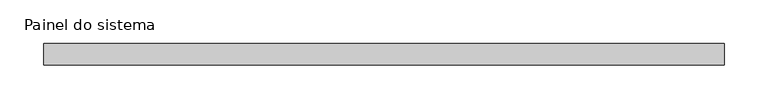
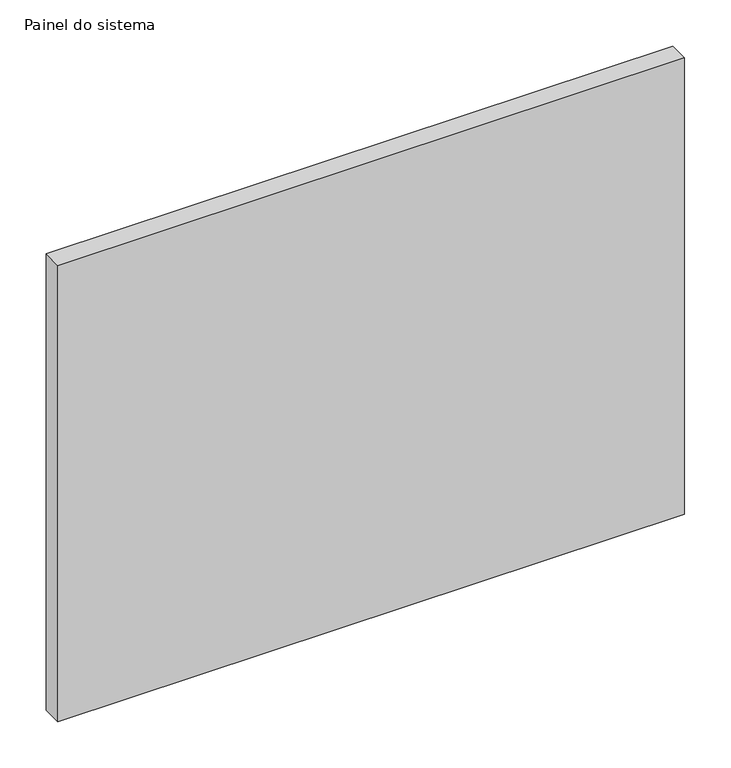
"""IFC4 building model written with IfcOpenShell, lengths in millimetres: plate geometry, Painel do sistema : Envidraçado."""

import ifcopenshell
import ifcopenshell.guid

model = None  # the IFC model being written
_history = None  # IfcOwnerHistory: only IFC2X3 demands one
_inside = {}  # id of a spatial element -> (the spatial element, [elements in it])
_under = {}  # id of a project, library or spatial element -> (it, [spatial elements below it])
_declared = {}  # id of a project -> (the project, [libraries it declares])
_typed = {}  # id of a type object -> (the type object, [elements of that type])
_made_of = {}  # id of a material, layer set ... -> (it, [elements and type objects made of it])


def new_model(schema):
    """Start an empty IFC model of exactly this schema.

    Asked for "IFC4X3", IfcOpenShell would pick the latest addendum, in which some entities
    have other attributes; the version numbers below select the first issue.
    IFC2X3 requires an IfcOwnerHistory on every rooted entity: one is made here for all.
    """
    global model, _history
    if schema == "IFC4X3":
        model = ifcopenshell.file(schema_version=(4, 3, 0, 0))
    else:
        model = ifcopenshell.file(schema=schema)
    _inside.clear()
    _under.clear()
    _declared.clear()
    _typed.clear()
    _made_of.clear()
    _history = None
    if model.schema == "IFC2X3":
        org = make("IfcOrganization", Name="unknown")
        user = make(
            "IfcPersonAndOrganization",
            ThePerson=make("IfcPerson", FamilyName="unknown"),
            TheOrganization=org,
        )
        app = make(
            "IfcApplication",
            ApplicationDeveloper=org,
            Version="unknown",
            ApplicationFullName="unknown",
            ApplicationIdentifier="unknown",
        )
        _history = make(
            "IfcOwnerHistory",
            OwningUser=user,
            OwningApplication=app,
            ChangeAction="ADDED",
            CreationDate=0,
        )
    return model


def make(cls, **values):
    """One entity of the class cls with the attributes given. An attribute that is None is left unset."""
    return model.create_entity(
        cls, **{name: value for name, value in values.items() if value is not None}
    )


def rooted(cls, **values):
    """An entity with a GlobalId (a new one), such as an element, a storey or a relation."""
    return make(cls, GlobalId=ifcopenshell.guid.new(), OwnerHistory=_history, **values)


def si_unit(unit_type, name, prefix=None):
    """IfcSIUnit, for example si_unit("LENGTHUNIT", "METRE", prefix="MILLI")."""
    return make("IfcSIUnit", UnitType=unit_type, Prefix=prefix, Name=name)


def assignment(units):
    """IfcUnitAssignment: the units of a project."""
    return None if units is None else make("IfcUnitAssignment", Units=units)


def point(xyz):
    """IfcCartesianPoint."""
    return None if xyz is None else make("IfcCartesianPoint", Coordinates=xyz)


def direction(xyz):
    """IfcDirection."""
    return None if xyz is None else make("IfcDirection", DirectionRatios=xyz)


def frame(location, z_axis=None, x_axis=None):
    """IfcAxis2Placement3D, a coordinate frame: its origin and axes. An axis left out is left unset."""
    return make(
        "IfcAxis2Placement3D",
        Location=point(location),
        Axis=direction(z_axis),
        RefDirection=direction(x_axis),
    )


def origin():
    """The frame at (0, 0, 0) with its axes left unset."""
    return frame((0.0, 0.0, 0.0))


def origin_with_axes():
    """The frame at (0, 0, 0) with the z axis (0, 0, 1) and the x axis (1, 0, 0) written out."""
    return frame((0.0, 0.0, 0.0), z_axis=(0.0, 0.0, 1.0), x_axis=(1.0, 0.0, 0.0))


def place(relative_to, where):
    """IfcLocalPlacement: puts the frame where relative to a parent placement (None: the world)."""
    return make(
        "IfcLocalPlacement", PlacementRelTo=relative_to, RelativePlacement=where
    )


def context(
    kind, dimensions, precision=None, world=None, true_north=None, identifier=None
):
    """IfcGeometricRepresentationContext, for example the 3D "Model" context."""
    return make(
        "IfcGeometricRepresentationContext",
        ContextIdentifier=identifier,
        ContextType=kind,
        CoordinateSpaceDimension=dimensions,
        Precision=precision,
        WorldCoordinateSystem=world,
        TrueNorth=true_north,
    )


def project(units=None, contexts=None):
    """IfcProject with its units and contexts."""
    return rooted(
        "IfcProject",
        Name="project",
        RepresentationContexts=contexts,
        UnitsInContext=assignment(units),
    )


def spatial(cls, under=None, at=None, **own):
    """A site, building, storey or space (cls), placed at a placement, below another one or the project."""
    s = rooted(cls, ObjectPlacement=at, **own)
    if under is not None:
        _under.setdefault(under.id(), (under, []))[1].append(s)
    return s


def polyline(points):
    """IfcPolyline through the points."""
    return make("IfcPolyline", Points=[point(p) for p in points])


def outline(outer, holes=None, kind="AREA"):
    """IfcArbitraryClosedProfileDef: a profile drawn as a closed curve; with holes, ...WithVoids."""
    if holes is None:
        return make("IfcArbitraryClosedProfileDef", ProfileType=kind, OuterCurve=outer)
    return make(
        "IfcArbitraryProfileDefWithVoids",
        ProfileType=kind,
        OuterCurve=outer,
        InnerCurves=holes,
    )


def extrude(swept, where, along, depth):
    """IfcExtrudedAreaSolid: the profile swept, set in the frame where, extruded along a direction by depth."""
    return make(
        "IfcExtrudedAreaSolid",
        SweptArea=swept,
        Position=where,
        ExtrudedDirection=direction(along),
        Depth=depth,
    )


def shape(context_of_items, identifier, shape_type, items):
    """IfcShapeRepresentation: the items that make up one representation, for example the "Body"."""
    return make(
        "IfcShapeRepresentation",
        ContextOfItems=context_of_items,
        RepresentationIdentifier=identifier,
        RepresentationType=shape_type,
        Items=items,
    )


def source(mapping_origin, context_of_items, identifier, shape_type, items):
    """IfcRepresentationMap: a shape defined once, which mapped items show again and again."""
    return make(
        "IfcRepresentationMap",
        MappingOrigin=mapping_origin,
        MappedRepresentation=shape(context_of_items, identifier, shape_type, items),
    )


def transform(
    local_origin,
    x_axis=None,
    y_axis=None,
    z_axis=None,
    scale=None,
    scale2=None,
    scale3=None,
    uniform=True,
):
    """IfcCartesianTransformationOperator3D, or its non-uniform kind. x_axis, y_axis, z_axis: its Axis1, 2, 3."""
    if uniform:
        return make(
            "IfcCartesianTransformationOperator3D",
            Axis1=direction(x_axis),
            Axis2=direction(y_axis),
            LocalOrigin=point(local_origin),
            Scale=scale,
            Axis3=direction(z_axis),
        )
    return make(
        "IfcCartesianTransformationOperator3DnonUniform",
        Axis1=direction(x_axis),
        Axis2=direction(y_axis),
        LocalOrigin=point(local_origin),
        Scale=scale,
        Axis3=direction(z_axis),
        Scale2=scale2,
        Scale3=scale3,
    )


def mapped(mapping_source, mapping_target):
    """IfcMappedItem: shows the shape of a source again, moved by a transform."""
    return make(
        "IfcMappedItem", MappingSource=mapping_source, MappingTarget=mapping_target
    )


def made_of(thing, what):
    """Note that an element or type object is made of a material, layer set ...; save() writes the relation."""
    if what is not None:
        _made_of.setdefault(what.id(), (what, []))[1].append(thing)
    return thing


def element(
    cls,
    number,
    at=None,
    inside=None,
    cuts=None,
    type_object=None,
    material=None,
    context=None,
    identifier="Body",
    shape_type=None,
    held_by="IfcProductDefinitionShape",
    body=None,
    shapes=None,
    **own,
):
    """One element of the class cls, such as IfcWall. Its Tag is "e" and its number.

    at: its placement. inside: the storey or other place that contains it. cuts: it is an
    opening in that element (IfcRelVoidsElement). A single representation is given by context,
    identifier, shape_type and body (its items); several are given by shapes. held_by: the class
    of the entity that holds the representations. save() writes the other relations.
    """
    e = rooted(cls, Tag="e%d" % number, ObjectPlacement=at, **own)
    if body is not None:
        shapes = [shape(context, identifier, shape_type, body)]
    if shapes is not None:
        e.Representation = make(held_by, Representations=shapes)
    if inside is not None:
        _inside.setdefault(inside.id(), (inside, []))[1].append(e)
    if cuts is not None:
        rooted(
            "IfcRelVoidsElement", RelatingBuildingElement=cuts, RelatedOpeningElement=e
        )
    if type_object is not None:
        _typed.setdefault(type_object.id(), (type_object, []))[1].append(e)
    return made_of(e, material)


def aggregate(whole, parts):
    """IfcRelAggregates: a whole, such as a stair, and the parts it consists of."""
    return rooted("IfcRelAggregates", RelatingObject=whole, RelatedObjects=parts)


def save(model, path):
    """Write the relations noted so far, then the file.

    IfcRelAggregates (storeys below a building ...), IfcRelContainedInSpatialStructure (elements
    in a storey), IfcRelDefinesByType, IfcRelAssociatesMaterial and IfcRelDeclares: one each for
    every whole, place, type object, material and project.
    """
    for whole, parts in _under.values():
        aggregate(whole, parts)
    for where, things in _inside.values():
        rooted(
            "IfcRelContainedInSpatialStructure",
            RelatedElements=things,
            RelatingStructure=where,
        )
    for kind, things in _typed.values():
        rooted("IfcRelDefinesByType", RelatedObjects=things, RelatingType=kind)
    for what, things in _made_of.values():
        rooted("IfcRelAssociatesMaterial", RelatedObjects=things, RelatingMaterial=what)
    for by, libraries in _declared.values():
        rooted("IfcRelDeclares", RelatingContext=by, RelatedDefinitions=libraries)
    model.write(path)


def painel_do_sistema_50c0b4db(model_context):
    return source(origin(), model_context, "Body", "SweptSolid", [
        extrude(outline(polyline([(390.0, 24.5), (-390.0, 24.5), (-390.0, 49.5), (390.0, 49.5), (390.0, 24.5)])), origin_with_axes(), (0.0, 0.0, 1.0), 600.0),
    ])


if __name__ == "__main__":
    model = new_model("IFC4")
    model_context = context("Model", 3, world=origin())
    ifc_project = project(units=[si_unit("LENGTHUNIT", "METRE", prefix="MILLI")], contexts=[model_context])
    site = spatial("IfcSite", under=ifc_project)
    building = spatial("IfcBuilding", under=site)
    placement = place(None, origin())
    painel_do_sistema_shape = painel_do_sistema_50c0b4db(model_context)
    element("IfcPlate", 1, ObjectType="Painel do sistema : Envidraçado", at=placement, inside=building, context=model_context, shape_type="MappedRepresentation", body=[
        mapped(painel_do_sistema_shape, transform((0.0, 0.0, 0.0), x_axis=(1.0, 0.0, 0.0), y_axis=(0.0, 1.0, 0.0), z_axis=(0.0, 0.0, 1.0))),
    ])
    save(model, "model.ifc")
